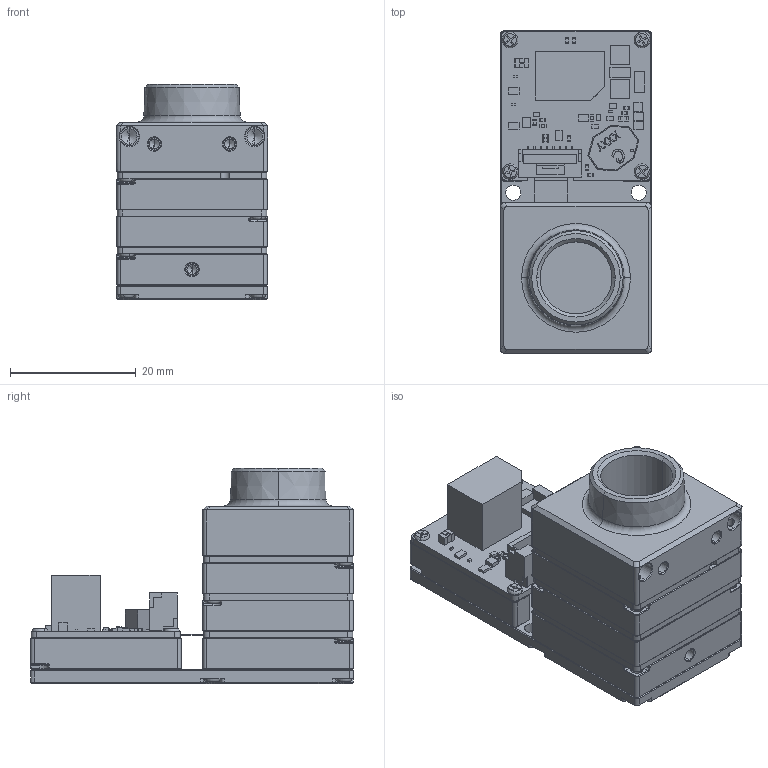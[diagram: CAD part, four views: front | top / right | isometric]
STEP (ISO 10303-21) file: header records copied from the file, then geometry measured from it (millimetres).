
FILE_DESCRIPTION (( 'STEP AP203' ), '1' );
FILE_NAME ('434-018-B_IX_180.STEP', '2025-04-21T19:20:28', ( '' ), ( '' ), 'SwSTEP 2.0', 'SolidWorks 2021', '' );
FILE_SCHEMA (( 'CONFIG_CONTROL_DESIGN' ));
Products named in the file (1): 434-018-B_IX_180
Bounding box: 24.13 x 51.45 x 34.3 mm (x, y, z)
Volume: 11539.8 mm3; surface area: 18993.9 mm2
Topology: 76 solids, 76 shells, 5028 faces, 12808 edges, 7831 vertices
Faces by surface type: plane 2833, cylinder 1267, cone 358, bspline 322, torus 162, sphere 86
Entity records: 155119 total; most frequent: CARTESIAN_POINT 35706, ORIENTED_EDGE 25208, DIRECTION 24153, EDGE_CURVE 12604, VECTOR 8815, LINE 8815, VERTEX_POINT 7825, AXIS2_PLACEMENT_3D 7669
